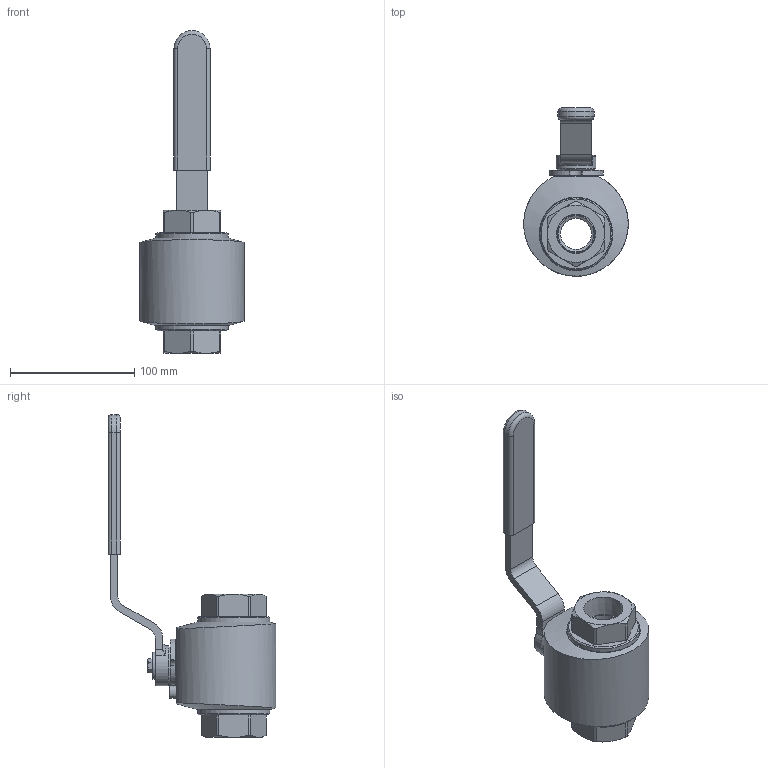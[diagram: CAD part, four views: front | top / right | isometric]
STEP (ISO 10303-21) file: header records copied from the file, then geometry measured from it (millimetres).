
FILE_DESCRIPTION( ( '' ), '1' );
FILE_NAME( 'E:/Péter_munkák/2014_04_23_LOG/TESZT_04/BF_NPS1_LGU.stp', '2014-04-25T13:19:35', ( '' ), ( '' ), 'PSStep 13.0', ' ', ' ' );
FILE_SCHEMA( ( 'AUTOMOTIVE_DESIGN { 1 0 10303 214 1 1 1 1 }' ) );
Length unit declared in the file: millimetre
Products named in the file (18): Assem1; Kézikar; BF_NPS1_LGU_; 001; 002; 003; 004; 012; 005; 006; 007; 008; 009; 010; 011
Bounding box: 84 x 134.95 x 259.28 mm (x, y, z)
Volume: 1353858.8 mm3; surface area: 373471.9 mm2
Topology: 45 solids, 45 shells, 747 faces, 1647 edges, 1050 vertices
Faces by surface type: plane 369, cylinder 210, cone 132, torus 36
Full cylindrical faces by diameter (mm): 4.2 x3, 5 x3, 6 x6, 6.6 x3, 10 x6, 20 x6, 22 x6, 25 x9, 28 x6, 28.981 x6, 32 x3, 40 x12, 56 x12, 58 x6
Entity records: 9322 total; most frequent: CARTESIAN_POINT 1858, DIRECTION 1140, ORIENTED_EDGE 964, EDGE_CURVE 482, AXIS2_PLACEMENT_3D 466, VERTEX_POINT 338, EDGE_LOOP 337, FACE_OUTER_BOUND 284
